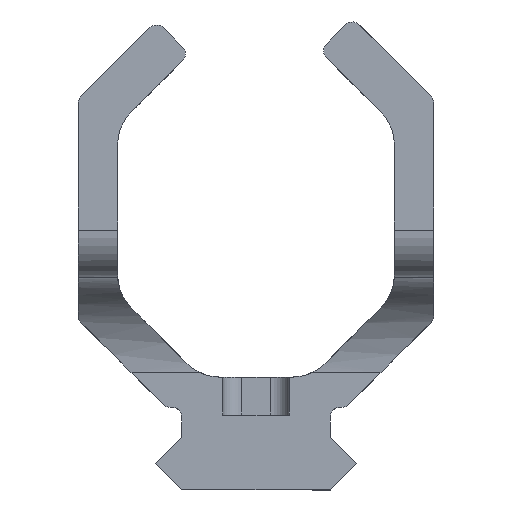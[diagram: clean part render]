
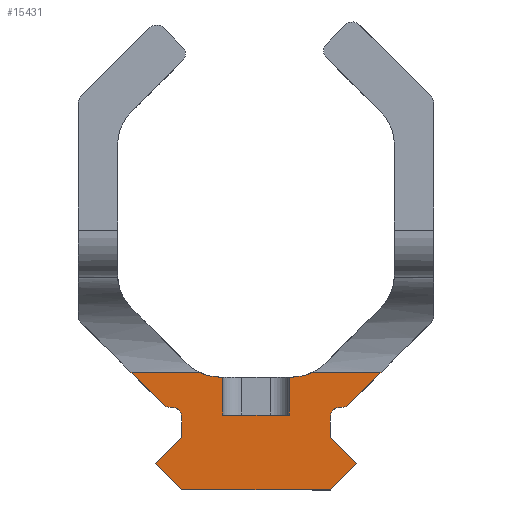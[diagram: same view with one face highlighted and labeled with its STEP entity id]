
A CAD part, left-side view. The second image highlights one B-rep face of the part: STEP entity #15431.
In plain terms, the highlighted planar face has unit normal (-1, 0, 0).
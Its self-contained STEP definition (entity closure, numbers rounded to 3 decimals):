
#246=CIRCLE('',#16018,5.);
#247=CIRCLE('',#16019,1.);
#248=CIRCLE('',#16020,1.);
#249=CIRCLE('',#16021,1.);
#250=CIRCLE('',#16022,1.);
#251=CIRCLE('',#16023,5.);
#664=ORIENTED_EDGE('',*,*,#4130,.F.);
#665=ORIENTED_EDGE('',*,*,#4131,.T.);
#666=ORIENTED_EDGE('',*,*,#4132,.T.);
#667=ORIENTED_EDGE('',*,*,#4133,.T.);
#668=ORIENTED_EDGE('',*,*,#4134,.F.);
#669=ORIENTED_EDGE('',*,*,#4135,.T.);
#670=ORIENTED_EDGE('',*,*,#4136,.T.);
#671=ORIENTED_EDGE('',*,*,#4137,.F.);
#672=ORIENTED_EDGE('',*,*,#4138,.T.);
#673=ORIENTED_EDGE('',*,*,#4139,.F.);
#674=ORIENTED_EDGE('',*,*,#4140,.T.);
#675=ORIENTED_EDGE('',*,*,#4141,.F.);
#676=ORIENTED_EDGE('',*,*,#4142,.F.);
#677=ORIENTED_EDGE('',*,*,#4143,.F.);
#678=ORIENTED_EDGE('',*,*,#4144,.T.);
#679=ORIENTED_EDGE('',*,*,#4145,.T.);
#680=ORIENTED_EDGE('',*,*,#4146,.T.);
#681=ORIENTED_EDGE('',*,*,#4147,.T.);
#682=ORIENTED_EDGE('',*,*,#4148,.T.);
#683=ORIENTED_EDGE('',*,*,#4149,.T.);
#684=ORIENTED_EDGE('',*,*,#4150,.T.);
#685=ORIENTED_EDGE('',*,*,#4151,.T.);
#686=ORIENTED_EDGE('',*,*,#4152,.T.);
#687=ORIENTED_EDGE('',*,*,#4153,.T.);
#4130=EDGE_CURVE('',#5863,#5864,#7021,.T.);
#4131=EDGE_CURVE('',#5863,#5865,#7022,.T.);
#4132=EDGE_CURVE('',#5865,#5866,#7023,.T.);
#4133=EDGE_CURVE('',#5866,#5867,#7024,.T.);
#4134=EDGE_CURVE('',#5868,#5867,#7025,.T.);
#4135=EDGE_CURVE('',#5868,#5869,#246,.F.);
#4136=EDGE_CURVE('',#5869,#5870,#7026,.T.);
#4137=EDGE_CURVE('',#5871,#5870,#7027,.T.);
#4138=EDGE_CURVE('',#5871,#5872,#247,.F.);
#4139=EDGE_CURVE('',#5873,#5872,#7028,.T.);
#4140=EDGE_CURVE('',#5873,#5874,#248,.T.);
#4141=EDGE_CURVE('',#5875,#5874,#7029,.T.);
#4142=EDGE_CURVE('',#5876,#5875,#7030,.T.);
#4143=EDGE_CURVE('',#5877,#5876,#7031,.T.);
#4144=EDGE_CURVE('',#5877,#5878,#7032,.T.);
#4145=EDGE_CURVE('',#5878,#5879,#7033,.T.);
#4146=EDGE_CURVE('',#5879,#5880,#7034,.T.);
#4147=EDGE_CURVE('',#5880,#5881,#7035,.T.);
#4148=EDGE_CURVE('',#5881,#5882,#249,.T.);
#4149=EDGE_CURVE('',#5882,#5883,#7036,.T.);
#4150=EDGE_CURVE('',#5883,#5884,#250,.F.);
#4151=EDGE_CURVE('',#5884,#5885,#7037,.T.);
#4152=EDGE_CURVE('',#5885,#5886,#7038,.T.);
#4153=EDGE_CURVE('',#5886,#5864,#251,.F.);
#5863=VERTEX_POINT('',#20338);
#5864=VERTEX_POINT('',#20339);
#5865=VERTEX_POINT('',#20341);
#5866=VERTEX_POINT('',#20343);
#5867=VERTEX_POINT('',#20345);
#5868=VERTEX_POINT('',#20347);
#5869=VERTEX_POINT('',#20349);
#5870=VERTEX_POINT('',#20351);
#5871=VERTEX_POINT('',#20353);
#5872=VERTEX_POINT('',#20355);
#5873=VERTEX_POINT('',#20357);
#5874=VERTEX_POINT('',#20359);
#5875=VERTEX_POINT('',#20361);
#5876=VERTEX_POINT('',#20363);
#5877=VERTEX_POINT('',#20365);
#5878=VERTEX_POINT('',#20367);
#5879=VERTEX_POINT('',#20369);
#5880=VERTEX_POINT('',#20371);
#5881=VERTEX_POINT('',#20373);
#5882=VERTEX_POINT('',#20375);
#5883=VERTEX_POINT('',#20377);
#5884=VERTEX_POINT('',#20379);
#5885=VERTEX_POINT('',#20381);
#5886=VERTEX_POINT('',#20383);
#7021=LINE('',#20337,#8322);
#7022=LINE('',#20340,#8323);
#7023=LINE('',#20342,#8324);
#7024=LINE('',#20344,#8325);
#7025=LINE('',#20346,#8326);
#7026=LINE('',#20350,#8327);
#7027=LINE('',#20352,#8328);
#7028=LINE('',#20356,#8329);
#7029=LINE('',#20360,#8330);
#7030=LINE('',#20362,#8331);
#7031=LINE('',#20364,#8332);
#7032=LINE('',#20366,#8333);
#7033=LINE('',#20368,#8334);
#7034=LINE('',#20370,#8335);
#7035=LINE('',#20372,#8336);
#7036=LINE('',#20376,#8337);
#7037=LINE('',#20380,#8338);
#7038=LINE('',#20382,#8339);
#8322=VECTOR('',#17026,1000.);
#8323=VECTOR('',#17027,1000.);
#8324=VECTOR('',#17028,1000.);
#8325=VECTOR('',#17029,1000.);
#8326=VECTOR('',#17030,1000.);
#8327=VECTOR('',#17033,1000.);
#8328=VECTOR('',#17034,1000.);
#8329=VECTOR('',#17037,1000.);
#8330=VECTOR('',#17040,1000.);
#8331=VECTOR('',#17041,1000.);
#8332=VECTOR('',#17042,1000.);
#8333=VECTOR('',#17043,1000.);
#8334=VECTOR('',#17044,1000.);
#8335=VECTOR('',#17045,1000.);
#8336=VECTOR('',#17046,1000.);
#8337=VECTOR('',#17049,1000.);
#8338=VECTOR('',#17052,1000.);
#8339=VECTOR('',#17053,1000.);
#9623=EDGE_LOOP('',(#664,#665,#666,#667,#668,#669,#670,#671,#672,#673,#674,
#675,#676,#677,#678,#679,#680,#681,#682,#683,#684,#685,#686,#687));
#10308=FACE_BOUND('',#9623,.T.);
#10993=PLANE('',#16017);
#15431=ADVANCED_FACE('',(#10308),#10993,.T.);
#16017=AXIS2_PLACEMENT_3D('',#20336,#17024,#17025);
#16018=AXIS2_PLACEMENT_3D('',#20348,#17031,#17032);
#16019=AXIS2_PLACEMENT_3D('',#20354,#17035,#17036);
#16020=AXIS2_PLACEMENT_3D('',#20358,#17038,#17039);
#16021=AXIS2_PLACEMENT_3D('',#20374,#17047,#17048);
#16022=AXIS2_PLACEMENT_3D('',#20378,#17050,#17051);
#16023=AXIS2_PLACEMENT_3D('',#20384,#17054,#17055);
#17024=DIRECTION('',(-1.,0.,0.));
#17025=DIRECTION('',(0.,1.,0.));
#17026=DIRECTION('',(0.,-1.,0.));
#17027=DIRECTION('',(0.,0.,-1.));
#17028=DIRECTION('',(0.,1.,0.));
#17029=DIRECTION('',(0.,0.,1.));
#17030=DIRECTION('',(0.,-1.,0.));
#17031=DIRECTION('',(-1.,0.,0.));
#17032=DIRECTION('',(0.,1.,0.));
#17033=DIRECTION('',(0.,1.,0.));
#17034=DIRECTION('',(0.,0.707,0.707));
#17035=DIRECTION('',(1.,0.,0.));
#17036=DIRECTION('',(0.,-1.,0.));
#17037=DIRECTION('',(0.,1.,0.));
#17038=DIRECTION('',(1.,0.,0.));
#17039=DIRECTION('',(0.,-1.,0.));
#17040=DIRECTION('',(0.,0.,1.));
#17041=DIRECTION('',(0.,-0.707,0.707));
#17042=DIRECTION('',(0.,0.707,0.707));
#17043=DIRECTION('',(0.,-1.,0.));
#17044=DIRECTION('',(0.,-0.707,0.707));
#17045=DIRECTION('',(0.,0.707,0.707));
#17046=DIRECTION('',(0.,0.,1.));
#17047=DIRECTION('',(1.,0.,0.));
#17048=DIRECTION('',(0.,-1.,0.));
#17049=DIRECTION('',(0.,-1.,0.));
#17050=DIRECTION('',(1.,0.,0.));
#17051=DIRECTION('',(0.,-1.,0.));
#17052=DIRECTION('',(0.,-0.707,0.707));
#17053=DIRECTION('',(0.,1.,0.));
#17054=DIRECTION('',(-1.,0.,0.));
#17055=DIRECTION('',(0.,1.,0.));
#20336=CARTESIAN_POINT('',(-122.086,-55.104,204.276));
#20337=CARTESIAN_POINT('',(-122.086,5.231,11.907));
#20338=CARTESIAN_POINT('',(-122.086,-3.5,11.907));
#20339=CARTESIAN_POINT('',(-122.086,-3.772,11.907));
#20340=CARTESIAN_POINT('',(-122.086,-3.5,8.907));
#20341=CARTESIAN_POINT('',(-122.086,-3.5,7.907));
#20342=CARTESIAN_POINT('',(-122.086,0.,7.907));
#20343=CARTESIAN_POINT('',(-122.086,3.5,7.907));
#20344=CARTESIAN_POINT('',(-122.086,3.5,8.907));
#20345=CARTESIAN_POINT('',(-122.086,3.5,11.907));
#20346=CARTESIAN_POINT('',(-122.086,5.231,11.907));
#20347=CARTESIAN_POINT('',(-122.086,3.772,11.907));
#20348=CARTESIAN_POINT('',(-122.086,3.772,16.907));
#20349=CARTESIAN_POINT('',(-122.086,5.994,12.428));
#20350=CARTESIAN_POINT('',(-122.086,18.776,12.428));
#20351=CARTESIAN_POINT('',(-122.086,13.191,12.428));
#20352=CARTESIAN_POINT('',(-122.086,9.129,8.366));
#20353=CARTESIAN_POINT('',(-122.086,9.776,9.013));
#20354=CARTESIAN_POINT('',(-122.086,9.069,9.72));
#20355=CARTESIAN_POINT('',(-122.086,9.069,8.72));
#20356=CARTESIAN_POINT('',(-122.086,7.835,8.72));
#20357=CARTESIAN_POINT('',(-122.086,8.835,8.72));
#20358=CARTESIAN_POINT('',(-122.086,8.835,7.72));
#20359=CARTESIAN_POINT('',(-122.086,7.835,7.72));
#20360=CARTESIAN_POINT('',(-122.086,7.835,5.53));
#20361=CARTESIAN_POINT('',(-122.086,7.835,5.53));
#20362=CARTESIAN_POINT('',(-122.086,10.6,2.765));
#20363=CARTESIAN_POINT('',(-122.086,10.6,2.765));
#20364=CARTESIAN_POINT('',(-122.086,7.835,0.));
#20365=CARTESIAN_POINT('',(-122.086,7.835,0.));
#20366=CARTESIAN_POINT('',(-122.086,195.188,0.));
#20367=CARTESIAN_POINT('',(-122.086,-7.835,0.));
#20368=CARTESIAN_POINT('',(-122.086,-7.835,0.));
#20369=CARTESIAN_POINT('',(-122.086,-10.6,2.765));
#20370=CARTESIAN_POINT('',(-122.086,-10.6,2.765));
#20371=CARTESIAN_POINT('',(-122.086,-7.835,5.53));
#20372=CARTESIAN_POINT('',(-122.086,-7.835,5.53));
#20373=CARTESIAN_POINT('',(-122.086,-7.835,7.72));
#20374=CARTESIAN_POINT('',(-122.086,-8.835,7.72));
#20375=CARTESIAN_POINT('',(-122.086,-8.835,8.72));
#20376=CARTESIAN_POINT('',(-122.086,-7.835,8.72));
#20377=CARTESIAN_POINT('',(-122.086,-9.069,8.72));
#20378=CARTESIAN_POINT('',(-122.086,-9.069,9.72));
#20379=CARTESIAN_POINT('',(-122.086,-9.776,9.013));
#20380=CARTESIAN_POINT('',(-122.086,-9.129,8.366));
#20381=CARTESIAN_POINT('',(-122.086,-13.191,12.428));
#20382=CARTESIAN_POINT('',(-122.086,-15.605,12.428));
#20383=CARTESIAN_POINT('',(-122.086,-5.994,12.428));
#20384=CARTESIAN_POINT('',(-122.086,-3.772,16.907));
